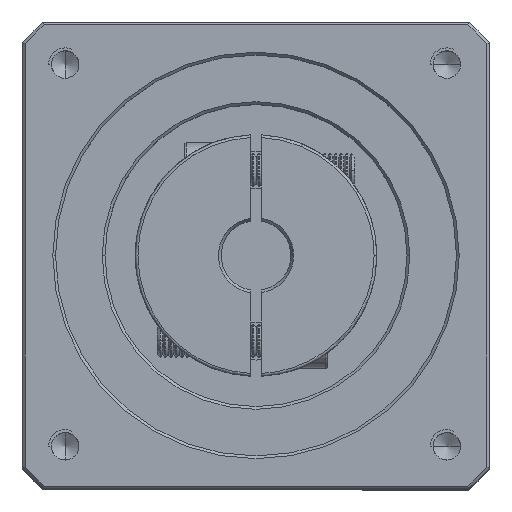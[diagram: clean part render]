
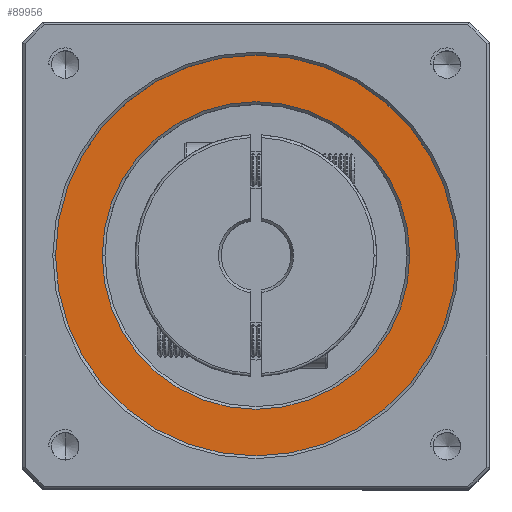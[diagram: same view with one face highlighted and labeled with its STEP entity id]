
A CAD part, top view. The second image highlights one B-rep face of the part: STEP entity #89956.
In plain terms, the highlighted planar face has unit normal (0, 0, 1).
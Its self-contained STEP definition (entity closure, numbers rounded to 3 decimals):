
#1542 = EDGE_LOOP ( 'NONE', ( #20106, #6737 ) ) ;
#4454 = VERTEX_POINT ( 'NONE', #5533 ) ;
#5533 = CARTESIAN_POINT ( 'NONE',  ( 17.696, 7.876, 176.5 ) ) ;
#6737 = ORIENTED_EDGE ( 'NONE', *, *, #62563, .T. ) ;
#8026 = AXIS2_PLACEMENT_3D ( 'NONE', #16476, #77386, #25263 ) ;
#9330 = DIRECTION ( 'NONE',  ( 0., 0., -1. ) ) ;
#13708 = CARTESIAN_POINT ( 'NONE',  ( -10.304, 7.876, 176.5 ) ) ;
#13764 = VERTEX_POINT ( 'NONE', #50082 ) ;
#16476 = CARTESIAN_POINT ( 'NONE',  ( -10.304, 7.876, 176.5 ) ) ;
#20106 = ORIENTED_EDGE ( 'NONE', *, *, #98154, .T. ) ;
#20348 = CIRCLE ( 'NONE', #8026, 28. ) ;
#22321 = EDGE_CURVE ( 'NONE', #103577, #4454, #44788, .T. ) ;
#22443 = DIRECTION ( 'NONE',  ( 1., 0., 0. ) ) ;
#25263 = DIRECTION ( 'NONE',  ( 1., 0., 0. ) ) ;
#36658 = AXIS2_PLACEMENT_3D ( 'NONE', #61350, #9330, #70131 ) ;
#37712 = EDGE_CURVE ( 'NONE', #4454, #103577, #20348, .T. ) ;
#37975 = FACE_BOUND ( 'NONE', #79347, .T. ) ;
#41104 = DIRECTION ( 'NONE',  ( 0., 0., 1. ) ) ;
#44788 = CIRCLE ( 'NONE', #36658, 28. ) ;
#46733 = ORIENTED_EDGE ( 'NONE', *, *, #37712, .T. ) ;
#49420 = CARTESIAN_POINT ( 'NONE',  ( -10.304, 7.876, 176.5 ) ) ;
#50082 = CARTESIAN_POINT ( 'NONE',  ( 26.196, 7.876, 176.5 ) ) ;
#50287 = VERTEX_POINT ( 'NONE', #72325 ) ;
#58133 = DIRECTION ( 'NONE',  ( 1., 0., 0. ) ) ;
#59041 = AXIS2_PLACEMENT_3D ( 'NONE', #93229, #41104, #101961 ) ;
#61350 = CARTESIAN_POINT ( 'NONE',  ( -10.304, 7.876, 176.5 ) ) ;
#62563 = EDGE_CURVE ( 'NONE', #50287, #13764, #67900, .T. ) ;
#64776 = AXIS2_PLACEMENT_3D ( 'NONE', #49420, #110155, #58133 ) ;
#67900 = CIRCLE ( 'NONE', #64776, 36.5 ) ;
#70131 = DIRECTION ( 'NONE',  ( 1., 0., 0. ) ) ;
#72325 = CARTESIAN_POINT ( 'NONE',  ( -46.804, 7.876, 176.5 ) ) ;
#73528 = ORIENTED_EDGE ( 'NONE', *, *, #22321, .T. ) ;
#74586 = DIRECTION ( 'NONE',  ( 0., 0., 1. ) ) ;
#77386 = DIRECTION ( 'NONE',  ( 0., 0., -1. ) ) ;
#79347 = EDGE_LOOP ( 'NONE', ( #46733, #73528 ) ) ;
#81363 = AXIS2_PLACEMENT_3D ( 'NONE', #13708, #74586, #22443 ) ;
#84224 = FACE_OUTER_BOUND ( 'NONE', #1542, .T. ) ;
#89362 = CIRCLE ( 'NONE', #59041, 36.5 ) ;
#89956 = ADVANCED_FACE ( 'NONE', ( #84224, #37975 ), #91269, .T. ) ;
#91269 = PLANE ( 'NONE',  #81363 ) ;
#93229 = CARTESIAN_POINT ( 'NONE',  ( -10.304, 7.876, 176.5 ) ) ;
#98154 = EDGE_CURVE ( 'NONE', #13764, #50287, #89362, .T. ) ;
#101961 = DIRECTION ( 'NONE',  ( 1., 0., 0. ) ) ;
#103577 = VERTEX_POINT ( 'NONE', #105786 ) ;
#105786 = CARTESIAN_POINT ( 'NONE',  ( -38.304, 7.876, 176.5 ) ) ;
#110155 = DIRECTION ( 'NONE',  ( 0., 0., 1. ) ) ;
